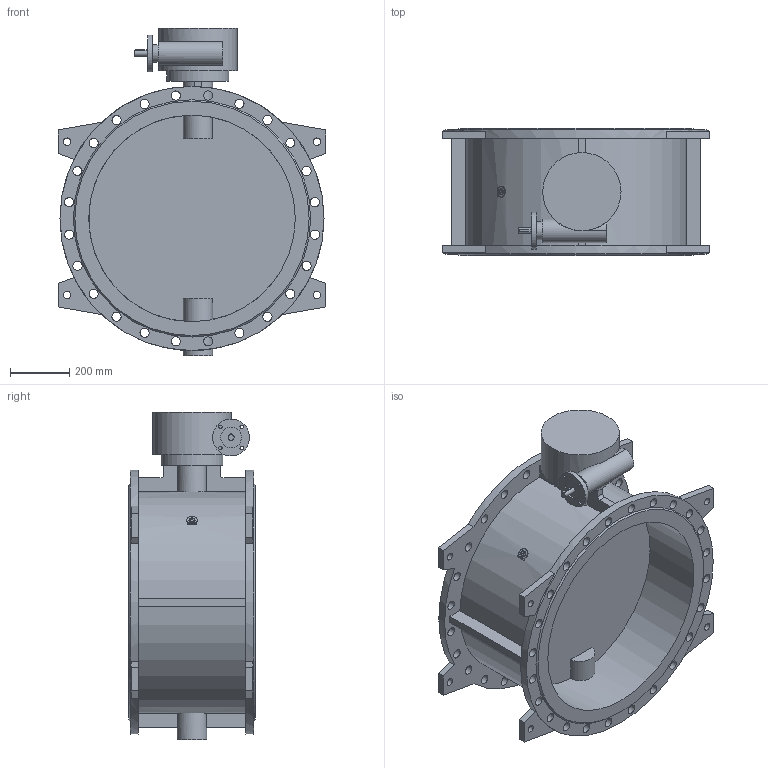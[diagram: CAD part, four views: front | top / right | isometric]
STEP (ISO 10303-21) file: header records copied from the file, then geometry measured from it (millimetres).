
FILE_DESCRIPTION(('STEP AP203'), '1');
FILE_NAME('Çàòâîð 023F.Z DN700 PN10_ð-ð_ôë', '', ('UNSPECIFIED'), ('UNSPECIFIED'), 'ASCON STEP Converter 1.6', 'ASCON Math Kernel', '');
FILE_SCHEMA(('CONFIG_CONTROL_DESIGN'));
Length unit declared in the file: millimetre
Bounding box: 906 x 430 x 1111 mm (x, y, z)
Volume: 71194456.9 mm3; surface area: 4215703.8 mm2
Topology: 1 solids, 1 shells, 195 faces, 508 edges, 338 vertices
Faces by surface type: cylinder 98, plane 95, cone 2
Full cylindrical faces by diameter (mm): 12 x4, 18.5 x4, 20 x1, 23 x4, 25 x8, 31 x48, 60 x1, 70 x1, 80 x1, 100 x1, 125 x1, 210 x1, 265 x1, 700 x2, 895 x2
Entity records: 8465 total; most frequent: CARTESIAN_POINT 2018, DIRECTION 1005, ORIENTED_EDGE 844, EDGE_CURVE 422, EDGE_LOOP 421, AXIS2_PLACEMENT_3D 407, VERTEX_POINT 337, FACE_BOUND 262
